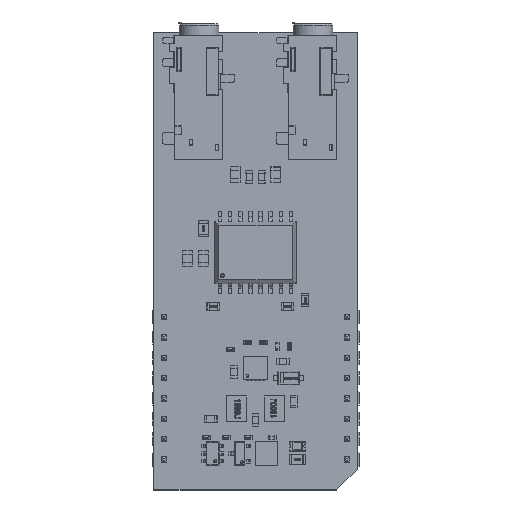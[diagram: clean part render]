
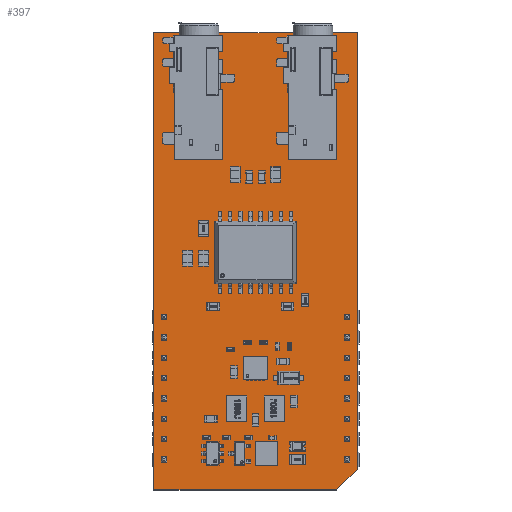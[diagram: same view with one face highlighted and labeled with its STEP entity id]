
A CAD part, top view. The second image highlights one B-rep face of the part: STEP entity #397.
In plain terms, the highlighted planar face has unit normal (0, 0, 1).
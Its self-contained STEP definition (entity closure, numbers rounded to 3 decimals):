
#236 = VERTEX_POINT('',#237);
#237 = CARTESIAN_POINT('',(-1.27,-3.81,2.22));
#243 = EDGE_CURVE('',#236,#244,#246,.T.);
#244 = VERTEX_POINT('',#245);
#245 = CARTESIAN_POINT('',(21.59,-3.81,2.22));
#246 = LINE('',#247,#248);
#247 = CARTESIAN_POINT('',(-1.27,-3.81,2.22));
#248 = VECTOR('',#249,1.);
#249 = DIRECTION('',(1.,0.,0.));
#274 = EDGE_CURVE('',#244,#275,#277,.T.);
#275 = VERTEX_POINT('',#276);
#276 = CARTESIAN_POINT('',(24.13,-1.27,2.22));
#277 = LINE('',#278,#279);
#278 = CARTESIAN_POINT('',(21.59,-3.81,2.22));
#279 = VECTOR('',#280,1.);
#280 = DIRECTION('',(0.707,0.707,0.));
#305 = EDGE_CURVE('',#275,#306,#308,.T.);
#306 = VERTEX_POINT('',#307);
#307 = CARTESIAN_POINT('',(24.13,53.34,2.22));
#308 = LINE('',#309,#310);
#309 = CARTESIAN_POINT('',(24.13,-1.27,2.22));
#310 = VECTOR('',#311,1.);
#311 = DIRECTION('',(0.,1.,0.));
#336 = EDGE_CURVE('',#306,#337,#339,.T.);
#337 = VERTEX_POINT('',#338);
#338 = CARTESIAN_POINT('',(-1.27,53.34,2.22));
#339 = LINE('',#340,#341);
#340 = CARTESIAN_POINT('',(24.13,53.34,2.22));
#341 = VECTOR('',#342,1.);
#342 = DIRECTION('',(-1.,0.,0.));
#367 = EDGE_CURVE('',#337,#236,#368,.T.);
#368 = LINE('',#369,#370);
#369 = CARTESIAN_POINT('',(-1.27,53.34,2.22));
#370 = VECTOR('',#371,1.);
#371 = DIRECTION('',(0.,-1.,0.));
#397 = ADVANCED_FACE('',(#398),#405,.T.);
#398 = FACE_BOUND('',#399,.T.);
#399 = EDGE_LOOP('',(#400,#401,#402,#403,#404));
#400 = ORIENTED_EDGE('',*,*,#243,.T.);
#401 = ORIENTED_EDGE('',*,*,#274,.T.);
#402 = ORIENTED_EDGE('',*,*,#305,.T.);
#403 = ORIENTED_EDGE('',*,*,#336,.T.);
#404 = ORIENTED_EDGE('',*,*,#367,.T.);
#405 = PLANE('',#406);
#406 = AXIS2_PLACEMENT_3D('',#407,#408,#409);
#407 = CARTESIAN_POINT('',(11.306,25.033,2.22));
#408 = DIRECTION('',(0.,0.,1.));
#409 = DIRECTION('',(1.,0.,-0.));
